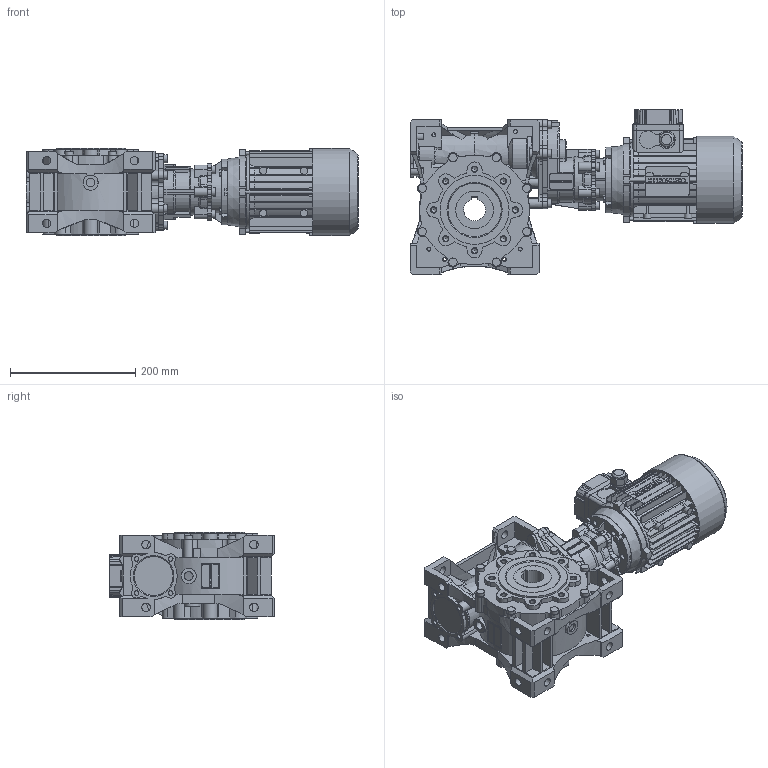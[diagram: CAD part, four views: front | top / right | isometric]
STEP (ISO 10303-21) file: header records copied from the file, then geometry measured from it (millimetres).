
FILE_DESCRIPTION(/* description */ ('STEP AP203'),/* implementation_level */ '2;1');
FILE_NAME(/* name */ 'NMRVP_HW 040-090 137.5 (5.5x25) 105x14 35 NO NO - - NO - - - NO T 071 -1(--------)',/* time_stamp */ '2023-06-26T06:39:22+02:00',/* author */ ('License CC BY-ND 4.0'),/* organization */ ('CADENAS'),/* preprocessor_version */ 'ST-DEVELOPER v19.3',/* originating_system */ 'PARTsolutions',/* authorisation */ ' ');
FILE_SCHEMA (('CONFIG_CONTROL_DESIGN'));
Products named in the file (14): NMRVP/HW 040-090 137.5 (5.5x25) 105x14 35 NO NO - - NO - - - NO T 071
 -1(--------); PC.040.27.14.M; ALBERO_T07114X30NO; PRESSACAVO_2; COPRIMORSETTIERA_T071A002; COPRIVENTOLA_T_071_IC411_NO_-_-_-_-_STD; CARCASSA_T-071IC411B1414X30NONO--; FLANGIA_T071B14-; 6371 B14; HW40; 90-50; W.090.14.19.M-phw; 090-35 (140); W.090.01.M
Assembly tree (13 placements, depth 2):
  NMRVP/HW 040-090 137.5 (5.5x25) 105x14 35 NO NO - - NO - - - NO T 071
 -1(--------)
    PC.040.27.14.M
    ALBERO_T07114X30NO
    PRESSACAVO_2
    COPRIMORSETTIERA_T071A002
    COPRIVENTOLA_T_071_IC411_NO_-_-_-_-_STD
    CARCASSA_T-071IC411B1414X30NONO--
    FLANGIA_T071B14-
    6371 B14
    HW40
    90-50
    W.090.14.19.M-phw
    090-35 (140)
    W.090.01.M
Bounding box: 529.5 x 263.5 x 140 mm (x, y, z)
Volume: 7938523.2 mm3; surface area: 833203.4 mm2
Topology: 13 solids, 15 shells, 3448 faces, 9567 edges, 6353 vertices
Faces by surface type: plane 1759, cylinder 1543, cone 133, torus 9, sphere 4
Full cylindrical faces by diameter (mm): 1.8 x1, 2.02 x1, 4.134 x1, 5 x4, 5.3 x1, 5.5 x4, 6 x16, 7.45 x12, 8 x4, 8.376 x16, 8.5 x6, 11.5 x4, 13 x20, 13.4 x14, 14 x5, 15 x1, 18 x1, 20 x3, 22 x1, 24 x2, 31 x1, 32 x1, 39 x1, 40 x1, 45 x1, 50 x3, 58 x1, 60 x1, 68 x2, 70 x2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
Entity records: 123125 total; most frequent: CARTESIAN_POINT 20570, DIRECTION 19205, ORIENTED_EDGE 18580, EDGE_CURVE 9290, AXIS2_PLACEMENT_3D 6889, VERTEX_POINT 6299, LINE 5427, VECTOR 5427
